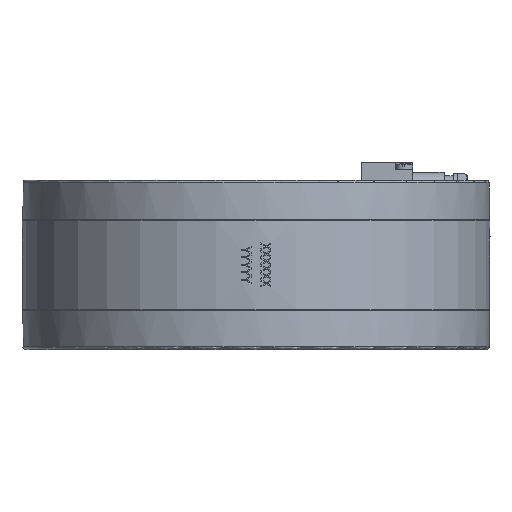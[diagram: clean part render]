
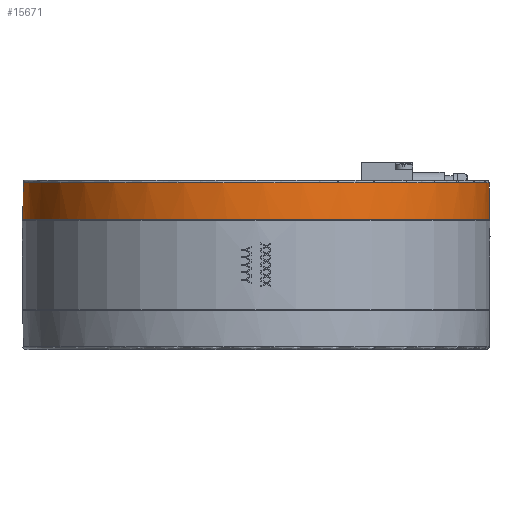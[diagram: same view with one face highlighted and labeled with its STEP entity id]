
A CAD part, front view. The second image highlights one B-rep face of the part: STEP entity #15671.
In plain terms, the highlighted cylindrical face has radius 82.5 mm (diameter 165 mm), a full revolution.
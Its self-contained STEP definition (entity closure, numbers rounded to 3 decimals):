
#6248=ELLIPSE('',#38241,116.673,82.5);
#6249=ELLIPSE('',#38243,116.673,82.5);
#10435=LINE('',#54182,#12416);
#10436=LINE('',#54187,#12417);
#12416=VECTOR('',#43202,1.);
#12417=VECTOR('',#43205,1.);
#13651=CYLINDRICAL_SURFACE('',#38244,82.5);
#14214=FACE_BOUND('',#19608,.T.);
#14215=FACE_BOUND('',#19609,.T.);
#15671=ADVANCED_FACE('BCT_REF_200578',(#14214,#14215),#13651,.T.);
#19608=EDGE_LOOP('',(#24750));
#19609=EDGE_LOOP('',(#24751,#24752,#24753,#24754,#24755,#24756));
#24750=ORIENTED_EDGE('',*,*,#33810,.T.);
#24751=ORIENTED_EDGE('',*,*,#33811,.T.);
#24752=ORIENTED_EDGE('',*,*,#33812,.T.);
#24753=ORIENTED_EDGE('',*,*,#33813,.T.);
#24754=ORIENTED_EDGE('',*,*,#33814,.T.);
#24755=ORIENTED_EDGE('',*,*,#33815,.T.);
#24756=ORIENTED_EDGE('',*,*,#33816,.T.);
#30367=VERTEX_POINT('',#54181);
#30368=VERTEX_POINT('',#54183);
#30369=VERTEX_POINT('',#54184);
#30370=VERTEX_POINT('',#54186);
#30371=VERTEX_POINT('',#54188);
#30372=VERTEX_POINT('',#54190);
#30373=VERTEX_POINT('',#54192);
#33810=EDGE_CURVE('',#30367,#30367,#36402,.T.);
#33811=EDGE_CURVE('',#30368,#30369,#10435,.T.);
#33812=EDGE_CURVE('',#30369,#30370,#36403,.T.);
#33813=EDGE_CURVE('',#30370,#30371,#10436,.T.);
#33814=EDGE_CURVE('',#30371,#30372,#6248,.T.);
#33815=EDGE_CURVE('',#30372,#30373,#36404,.T.);
#33816=EDGE_CURVE('',#30373,#30368,#6249,.T.);
#36402=CIRCLE('',#38239,82.5);
#36403=CIRCLE('',#38240,82.5);
#36404=CIRCLE('',#38242,82.5);
#38239=AXIS2_PLACEMENT_3D('',#54180,#43200,#43201);
#38240=AXIS2_PLACEMENT_3D('',#54185,#43203,#43204);
#38241=AXIS2_PLACEMENT_3D('',#54189,#43206,#43207);
#38242=AXIS2_PLACEMENT_3D('',#54191,#43208,#43209);
#38243=AXIS2_PLACEMENT_3D('',#54193,#43210,#43211);
#38244=AXIS2_PLACEMENT_3D('',#54194,#43212,#43213);
#43200=DIRECTION('',(0.,0.,-1.));
#43201=DIRECTION('',(1.,0.,0.));
#43202=DIRECTION('',(0.,0.,1.));
#43203=DIRECTION('',(0.,0.,1.));
#43204=DIRECTION('',(-1.,0.,0.));
#43205=DIRECTION('',(0.,0.,-1.));
#43206=DIRECTION('',(0.,0.707,0.707));
#43207=DIRECTION('',(0.,0.707,-0.707));
#43208=DIRECTION('',(0.,0.,1.));
#43209=DIRECTION('',(1.,0.,0.));
#43210=DIRECTION('',(0.,0.707,0.707));
#43211=DIRECTION('',(0.,0.707,-0.707));
#43212=DIRECTION('',(0.,0.,-1.));
#43213=DIRECTION('',(-1.,0.,0.));
#54180=CARTESIAN_POINT('',(0.,0.,29.));
#54181=CARTESIAN_POINT('',(82.5,0.,29.));
#54182=CARTESIAN_POINT('',(20.156,80.,30.));
#54183=CARTESIAN_POINT('',(20.156,80.,15.85));
#54184=CARTESIAN_POINT('',(20.156,80.,16.55));
#54185=CARTESIAN_POINT('',(0.,0.,16.55));
#54186=CARTESIAN_POINT('',(-20.156,80.,16.55));
#54187=CARTESIAN_POINT('',(-20.156,80.,30.));
#54188=CARTESIAN_POINT('',(-20.156,80.,15.85));
#54189=CARTESIAN_POINT('',(0.,0.,95.85));
#54190=CARTESIAN_POINT('',(-21.123,79.75,16.1));
#54191=CARTESIAN_POINT('',(0.,0.,16.1));
#54192=CARTESIAN_POINT('',(21.123,79.75,16.1));
#54193=CARTESIAN_POINT('',(0.,0.,95.85));
#54194=CARTESIAN_POINT('',(0.,0.,30.));
